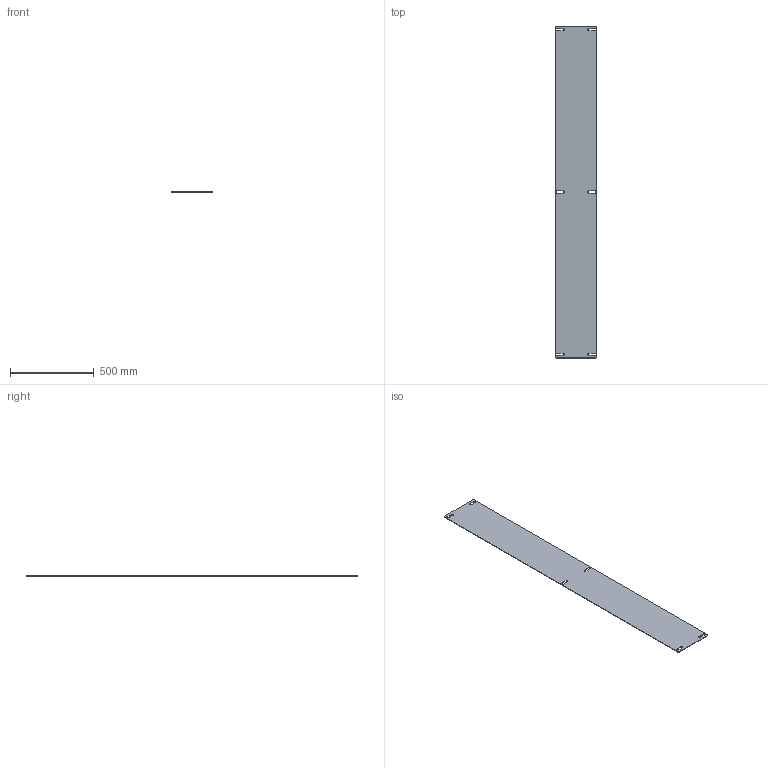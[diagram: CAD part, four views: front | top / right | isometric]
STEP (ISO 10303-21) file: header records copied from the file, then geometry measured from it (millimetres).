
FILE_DESCRIPTION((''),'2;1');
FILE_NAME('MODEL-095_ASM','2019-10-03T06:44:34',('joelb'),('SAGINAW CONTROL & ENGINEERING'),'CREO PARAMETRIC BY PTC INC, 2017260','CREO PARAMETRIC BY PTC INC, 2017260','');
FILE_SCHEMA(('AUTOMOTIVE_DESIGN { 1 0 10303 214 1 1 1 1 }'));
Length unit declared in the file: inch
Products named in the file (2): MODEL-095-FLR-PLT; MODEL-095_ASM
Assembly tree (1 placements, depth 2):
  MODEL-095_ASM
    MODEL-095-FLR-PLT
Bounding box: 247.65 x 1981.2 x 3.17 mm (x, y, z)
Volume: 1546054.5 mm3; surface area: 990222.8 mm2
Topology: 1 solids, 1 shells, 46 faces, 132 edges, 88 vertices
Faces by surface type: plane 30, cylinder 16
Entity records: 2525 total; most frequent: CARTESIAN_POINT 273, ORIENTED_EDGE 264, DIRECTION 262, PRESENTATION_STYLE_ASSIGNMENT 133, STYLED_ITEM 133, CURVE_STYLE 132, EDGE_CURVE 132, VECTOR 100
